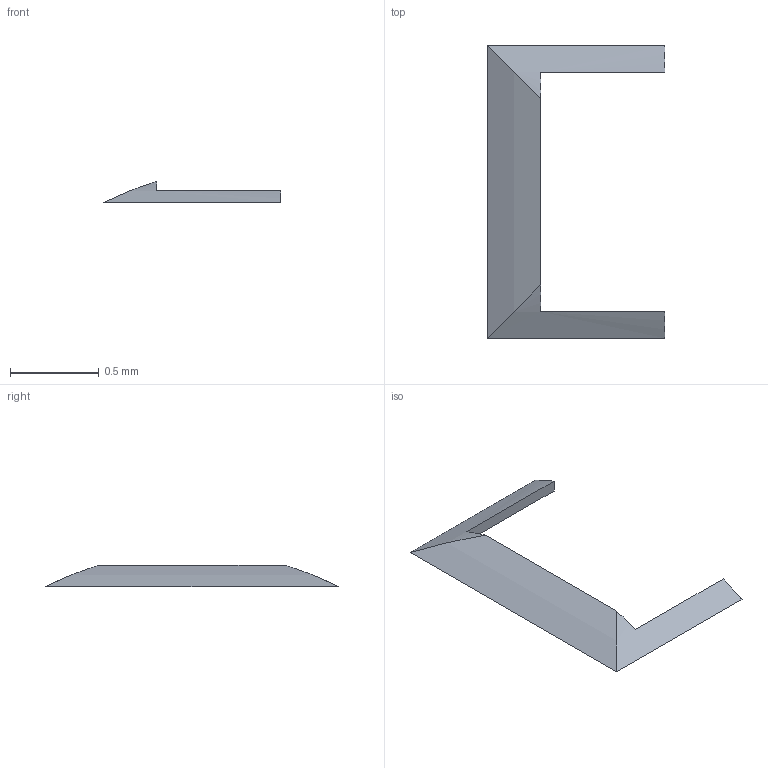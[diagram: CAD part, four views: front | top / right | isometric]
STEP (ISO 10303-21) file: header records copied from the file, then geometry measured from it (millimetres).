
FILE_DESCRIPTION(/* description */ ('STEP AP242 Edition 2','CAx-IF Rec.Pracs.---Representation and Presentation of Product Manufacturing Information (PMI)---4.0---2014-10-13','CAx-IF Rec.Pracs.---3D Tessellated Geometry---0.4---2014-09-14','2;1','CAx-IF Rec.Pracs.---User Defined Attributes---1.5---2016-08-15'),/* implementation_level */ '2;1');
FILE_NAME(/* name */ 'Drone Layout - Surface 200',/* time_stamp */ '2026-10-04T22:22:52Z',/* author */ (''),/* organization */ (''),/* preprocessor_version */ 'ST-DEVELOPER v20',/* originating_system */ 'ONSHAPE BY PTC INC, 1.221',/* authorisation */ ' ');
FILE_SCHEMA (('AP242_MANAGED_MODEL_BASED_3D_ENGINEERING_MIM_LF { 1 0 10303 442 3 1 4 }'));
Length unit declared in the file: metre
Products named in the file (1): cap:1__pad (1)_1
Bounding box: 1 x 1.65 x 0.12 mm (x, y, z)
Volume: 0 mm3; surface area: 1.7 mm2
Topology: 1 solids, 1 shells, 9 faces, 21 edges, 14 vertices
Faces by surface type: plane 6, cylinder 3
Entity records: 274 total; most frequent: CARTESIAN_POINT 51, DIRECTION 43, ORIENTED_EDGE 42, EDGE_CURVE 21, LINE 15, VECTOR 15, VERTEX_POINT 14, AXIS2_PLACEMENT_3D 14
